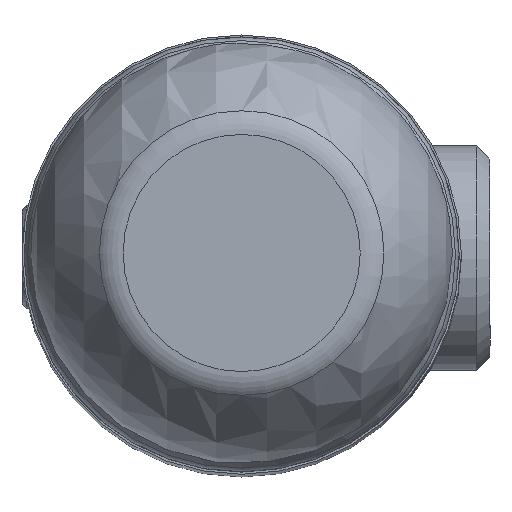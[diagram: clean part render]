
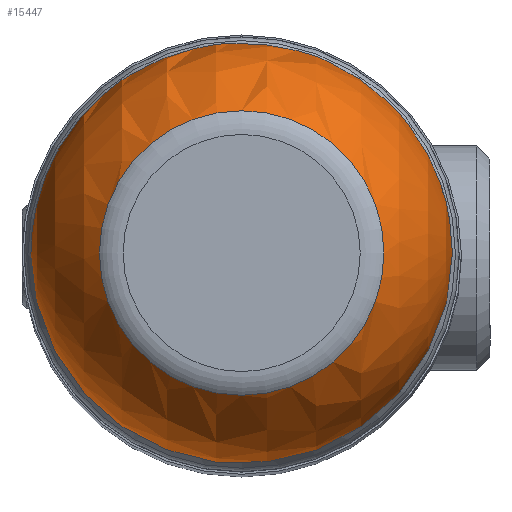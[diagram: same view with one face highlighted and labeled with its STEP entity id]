
A CAD part, top view. The second image highlights one B-rep face of the part: STEP entity #15447.
In plain terms, the highlighted spherical face has radius 12.186 mm.
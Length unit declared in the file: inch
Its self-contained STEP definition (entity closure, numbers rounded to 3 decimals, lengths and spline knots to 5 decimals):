
#435=SPHERICAL_SURFACE('',#16428,0.47975);
#3259=CIRCLE('',#16426,0.32389);
#3260=CIRCLE('',#16429,0.26399);
#3702=FACE_BOUND('',#4764,.T.);
#3703=FACE_BOUND('',#4765,.T.);
#4764=EDGE_LOOP('',(#10597));
#4765=EDGE_LOOP('',(#10598));
#6586=VERTEX_POINT('',#20574);
#6587=VERTEX_POINT('',#20578);
#8193=EDGE_CURVE('',#6586,#6586,#3259,.T.);
#8194=EDGE_CURVE('',#6587,#6587,#3260,.T.);
#10597=ORIENTED_EDGE('',*,*,#8194,.F.);
#10598=ORIENTED_EDGE('',*,*,#8193,.F.);
#15447=ADVANCED_FACE('',(#3702,#3703),#435,.T.);
#16426=AXIS2_PLACEMENT_3D('',#20575,#17425,#17426);
#16428=AXIS2_PLACEMENT_3D('',#20577,#17429,#17430);
#16429=AXIS2_PLACEMENT_3D('',#20579,#17431,#17432);
#17425=DIRECTION('center_axis',(1.,0.,0.));
#17426=DIRECTION('ref_axis',(0.,0.,-1.));
#17429=DIRECTION('center_axis',(0.,0.,1.));
#17430=DIRECTION('ref_axis',(1.,0.,0.));
#17431=DIRECTION('center_axis',(-1.,0.,0.));
#17432=DIRECTION('ref_axis',(0.,-1.,0.));
#20574=CARTESIAN_POINT('',(-0.06494,1.07816,0.32389));
#20575=CARTESIAN_POINT('Origin',(-0.06494,1.07816,0.));
#20577=CARTESIAN_POINT('Origin',(-0.41886,1.07816,0.));
#20578=CARTESIAN_POINT('',(-0.81944,1.34215,0.));
#20579=CARTESIAN_POINT('Origin',(-0.81944,1.07816,0.));
